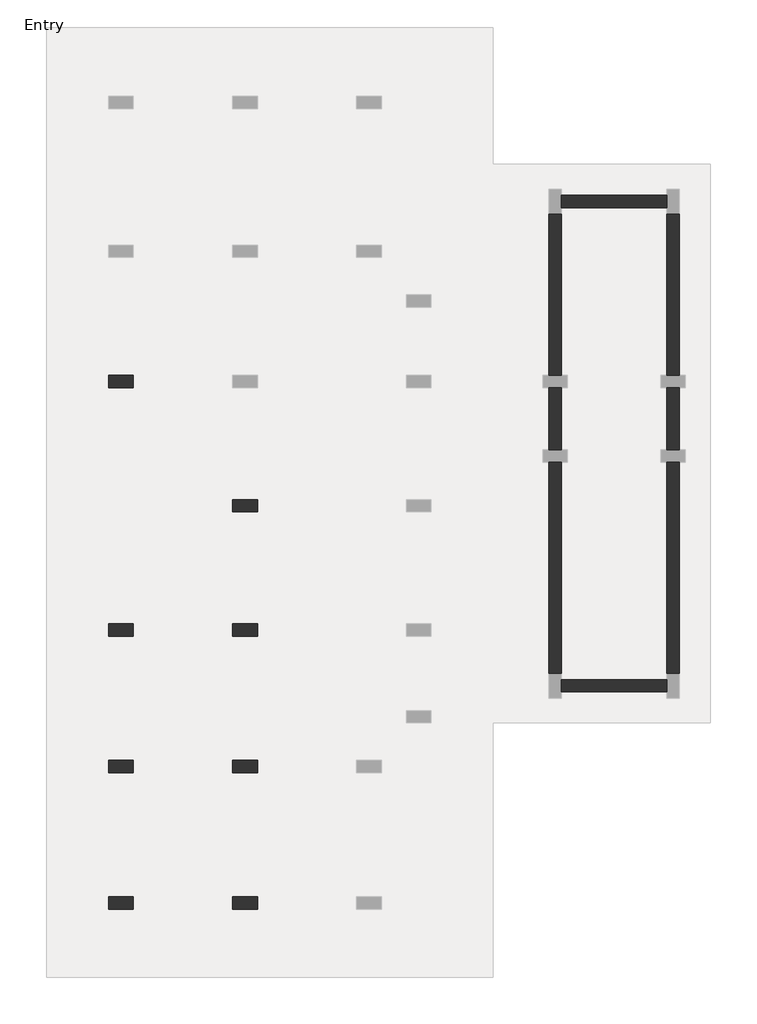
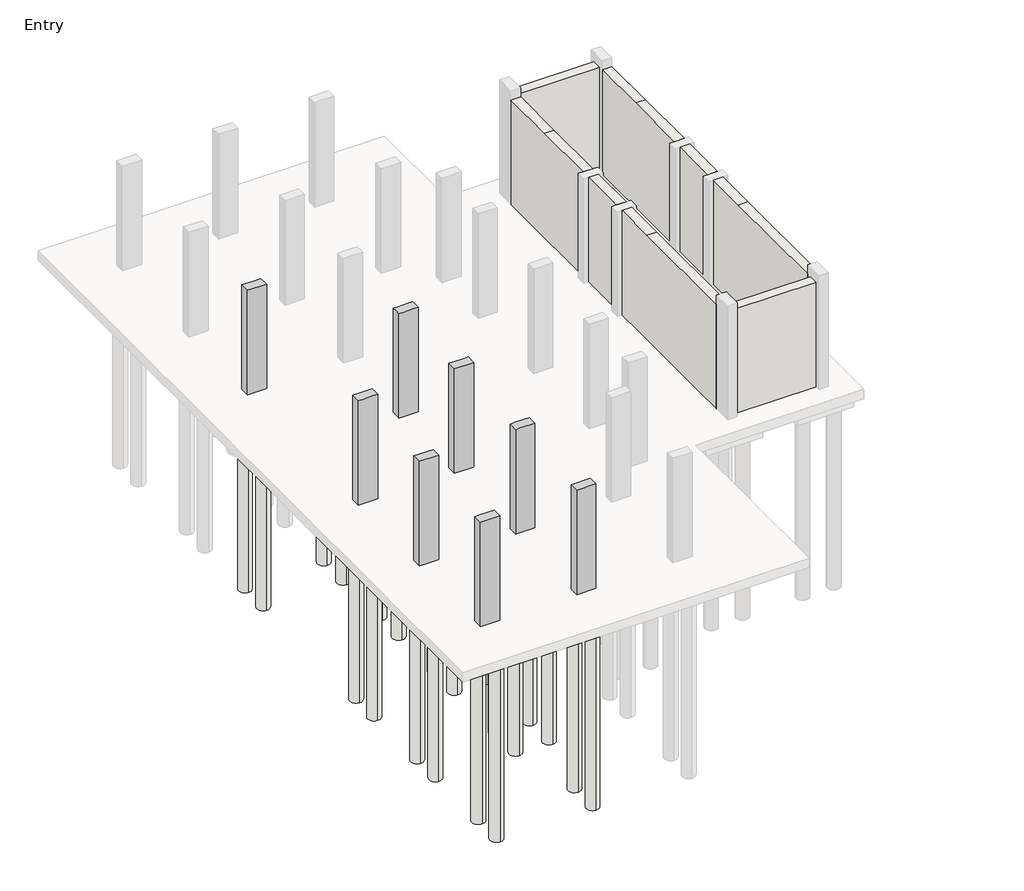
# One storey, part 1 of 3: 32 slabs, 8 columns, 8 walls.
"""IFC4 building model written with IfcOpenShell, lengths in millimetres."""

from ifc_helpers import new_model, si_unit, point, frame, frame_2d, origin, origin_with_axes, place, context, project, spatial, polyline, circle_curve, trimmed, segment, composite_curve, outline, extrude, faceted_brep, element, save

model = new_model("IFC4")

# Units and contexts
model_context = context("Model", 3, world=origin())
ifc_project = project(units=[si_unit("LENGTHUNIT", "METRE", prefix="MILLI")], contexts=[model_context])

# Site, building, storey
site = spatial("IfcSite", under=ifc_project)
building = spatial("IfcBuilding", under=site)
storey = spatial("IfcBuildingStorey", under=building, Name="Entry", Elevation=0.0)

# Columns
placement = place(None, origin())
element("IfcColumn", 1, ObjectType="Concrete-Rectangular-Column : 12 x 24", at=placement, inside=storey, context=model_context, shape_type="Brep", body=[
    faceted_brep([(-20960.8093661, 15543.5691779, 0.0), (-20351.2093661, 15543.5691779, 0.0), (-20351.2093661, 15238.7691779, 0.0), (-20960.8093661, 15238.7691779, 0.0), (-20960.8093661, 15543.5691779, 3505.2), (-20808.4093661, 15543.5691779, 3505.2), (-20503.6093661, 15543.5691779, 3505.2), (-20351.2093661, 15543.5691779, 3505.2), (-20351.2093661, 15543.5691779, 2895.6), (-20351.2093661, 15238.7691779, 3505.2), (-20351.2093661, 15238.7691779, 2895.6), (-20960.8093661, 15238.7691779, 3505.2)], [[[0, 1, 2, 3]], [[4, 5, 6, 7, 8, 1, 0]], [[7, 9, 10, 2, 1, 8]], [[9, 11, 3, 2, 10]], [[11, 4, 0, 3]], [[4, 11, 9, 7, 6, 5]]]),
])
element("IfcColumn", 2, ObjectType="Concrete-Rectangular-Column : 12 x 24", at=placement, inside=storey, context=model_context, shape_type="Brep", body=[
    faceted_brep([(-17912.8093661, 12495.5691779, 0.0), (-17303.2093661, 12495.5691779, 0.0), (-17303.2093661, 12190.7691779, 0.0), (-17912.8093661, 12190.7691779, 0.0), (-17912.8093661, 12495.5691779, 3505.2), (-17760.4093661, 12495.5691779, 3505.2), (-17455.6093661, 12495.5691779, 3505.2), (-17303.2093661, 12495.5691779, 3505.2), (-17303.2093661, 12495.5691779, 2895.6), (-17303.2093661, 12190.7691779, 3505.2), (-17303.2093661, 12190.7691779, 2895.6), (-17455.6093661, 12190.7691779, 3505.2), (-17760.4093661, 12190.7691779, 3505.2), (-17912.8093661, 12190.7691779, 3505.2), (-17912.8093661, 12343.1691779, 3505.2)], [[[0, 1, 2, 3]], [[4, 5, 6, 7, 8, 1, 0]], [[7, 9, 10, 2, 1, 8]], [[9, 11, 12, 13, 3, 2, 10]], [[13, 14, 4, 0, 3]], [[4, 14, 13, 12, 11, 9, 7, 6, 5]]]),
])
element("IfcColumn", 3, ObjectType="Concrete-Rectangular-Column : 12 x 24", at=placement, inside=storey, context=model_context, shape_type="Brep", body=[
    faceted_brep([(-20960.8093661, 9447.5691779, 0.0), (-20351.2093661, 9447.5691779, 0.0), (-20351.2093661, 9142.7691779, 0.0), (-20960.8093661, 9142.7691779, 0.0), (-20960.8093661, 9447.5691779, 3505.2), (-20351.2093661, 9447.5691779, 3505.2), (-20351.2093661, 9447.5691779, 2895.6), (-20351.2093661, 9142.7691779, 3505.2), (-20351.2093661, 9142.7691779, 2895.6), (-20503.6093661, 9142.7691779, 3505.2), (-20808.4093661, 9142.7691779, 3505.2), (-20960.8093661, 9142.7691779, 3505.2)], [[[0, 1, 2, 3]], [[4, 5, 6, 1, 0]], [[5, 7, 8, 2, 1, 6]], [[7, 9, 10, 11, 3, 2, 8]], [[11, 4, 0, 3]], [[4, 11, 10, 9, 7, 5]]]),
])
element("IfcColumn", 4, ObjectType="Concrete-Rectangular-Column : 12 x 24", at=placement, inside=storey, context=model_context, shape_type="Brep", body=[
    faceted_brep([(-17912.8093661, 9447.5691779, 0.0), (-17303.2093661, 9447.5691779, 0.0), (-17303.2093661, 9142.7691779, 0.0), (-17912.8093661, 9142.7691779, 0.0), (-17912.8093661, 9447.5691779, 3505.2), (-17760.4093661, 9447.5691779, 3505.2), (-17455.6093661, 9447.5691779, 3505.2), (-17303.2093661, 9447.5691779, 3505.2), (-17303.2093661, 9447.5691779, 2895.6), (-17912.8093661, 9447.5691779, 2895.6), (-17303.2093661, 9142.7691779, 3505.2), (-17303.2093661, 9142.7691779, 2895.6), (-17455.6093661, 9142.7691779, 3505.2), (-17760.4093661, 9142.7691779, 3505.2), (-17912.8093661, 9142.7691779, 3505.2), (-17912.8093661, 9142.7691779, 2895.6)], [[[0, 1, 2, 3]], [[4, 5, 6, 7, 8, 1, 0, 9]], [[7, 10, 11, 2, 1, 8]], [[10, 12, 13, 14, 15, 3, 2, 11]], [[14, 4, 9, 0, 3, 15]], [[4, 14, 13, 12, 10, 7, 6, 5]]]),
])
element("IfcColumn", 5, ObjectType="Concrete-Rectangular-Column : 12 x 24", at=placement, inside=storey, context=model_context, shape_type="Brep", body=[
    faceted_brep([(-20960.8093661, 2741.9691779, 0.0), (-20351.2093661, 2741.9691779, 0.0), (-20351.2093661, 2437.1691779, 0.0), (-20960.8093661, 2437.1691779, 0.0), (-20960.8093661, 2741.9691779, 3505.2), (-20808.4093661, 2741.9691779, 3505.2), (-20503.6093661, 2741.9691779, 3505.2), (-20351.2093661, 2741.9691779, 3505.2), (-20351.2093661, 2741.9691779, 2895.6), (-20351.2093661, 2437.1691779, 3505.2), (-20351.2093661, 2437.1691779, 2895.6), (-20960.8093661, 2437.1691779, 3505.2)], [[[0, 1, 2, 3]], [[4, 5, 6, 7, 8, 1, 0]], [[7, 9, 10, 2, 1, 8]], [[9, 11, 3, 2, 10]], [[11, 4, 0, 3]], [[4, 11, 9, 7, 6, 5]]]),
])
element("IfcColumn", 6, ObjectType="Concrete-Rectangular-Column : 12 x 24", at=placement, inside=storey, context=model_context, shape_type="Brep", body=[
    faceted_brep([(-17912.8093661, 2741.9691779, 0.0), (-17303.2093661, 2741.9691779, 0.0), (-17303.2093661, 2437.1691779, 0.0), (-17912.8093661, 2437.1691779, 0.0), (-17912.8093661, 2741.9691779, 3505.2), (-17760.4093661, 2741.9691779, 3505.2), (-17455.6093661, 2741.9691779, 3505.2), (-17303.2093661, 2741.9691779, 3505.2), (-17303.2093661, 2741.9691779, 2895.6), (-17912.8093661, 2741.9691779, 2895.6), (-17303.2093661, 2437.1691779, 3505.2), (-17303.2093661, 2437.1691779, 2895.6), (-17912.8093661, 2437.1691779, 3505.2), (-17912.8093661, 2437.1691779, 2895.6)], [[[0, 1, 2, 3]], [[4, 5, 6, 7, 8, 1, 0, 9]], [[7, 10, 11, 2, 1, 8]], [[10, 12, 13, 3, 2, 11]], [[12, 4, 9, 0, 3, 13]], [[4, 12, 10, 7, 6, 5]]]),
])
element("IfcColumn", 7, ObjectType="Concrete-Rectangular-Column : 12 x 24", at=placement, inside=storey, context=model_context, shape_type="Brep", body=[
    faceted_brep([(-20960.8093661, 6094.7691779, 0.0), (-20351.2093661, 6094.7691779, 0.0), (-20351.2093661, 5789.9691779, 0.0), (-20960.8093661, 5789.9691779, 0.0), (-20960.8093661, 6094.7691779, 3505.2), (-20808.4093661, 6094.7691779, 3505.2), (-20503.6093661, 6094.7691779, 3505.2), (-20351.2093661, 6094.7691779, 3505.2), (-20351.2093661, 6094.7691779, 2895.6), (-20351.2093661, 5789.9691779, 3505.2), (-20351.2093661, 5789.9691779, 2895.6), (-20503.6093661, 5789.9691779, 3505.2), (-20808.4093661, 5789.9691779, 3505.2), (-20960.8093661, 5789.9691779, 3505.2)], [[[0, 1, 2, 3]], [[4, 5, 6, 7, 8, 1, 0]], [[7, 9, 10, 2, 1, 8]], [[9, 11, 12, 13, 3, 2, 10]], [[13, 4, 0, 3]], [[4, 13, 12, 11, 9, 7, 6, 5]]]),
])
element("IfcColumn", 8, ObjectType="Concrete-Rectangular-Column : 12 x 24", at=placement, inside=storey, context=model_context, shape_type="Brep", body=[
    faceted_brep([(-17912.8093661, 6094.7691779, 0.0), (-17303.2093661, 6094.7691779, 0.0), (-17303.2093661, 5789.9691779, 0.0), (-17912.8093661, 5789.9691779, 0.0), (-17912.8093661, 6094.7691779, 3505.2), (-17760.4093661, 6094.7691779, 3505.2), (-17455.6093661, 6094.7691779, 3505.2), (-17303.2093661, 6094.7691779, 3505.2), (-17303.2093661, 6094.7691779, 2895.6), (-17912.8093661, 6094.7691779, 2895.6), (-17303.2093661, 5789.9691779, 3505.2), (-17303.2093661, 5789.9691779, 2895.6), (-17455.6093661, 5789.9691779, 3505.2), (-17760.4093661, 5789.9691779, 3505.2), (-17912.8093661, 5789.9691779, 3505.2), (-17912.8093661, 5789.9691779, 2895.6)], [[[0, 1, 2, 3]], [[4, 5, 6, 7, 8, 1, 0, 9]], [[7, 10, 11, 2, 1, 8]], [[10, 12, 13, 14, 15, 3, 2, 11]], [[14, 4, 9, 0, 3, 15]], [[4, 14, 13, 12, 10, 7, 6, 5]]]),
])

# Slabs
element("IfcSlab", 9, ObjectType="Pile Cap-2 Pile : 31\"x61\"x35\"", at=placement, inside=storey, context=model_context, shape_type="SweptSolid", body=[
    extrude(outline(polyline([(-21062.4093661, 16292.8691779), (-20249.6093661, 16292.8691779), (-20249.6093661, 14489.4691779), (-21062.4093661, 14489.4691779), (-21062.4093661, 16292.8691779)])), frame((0.0, 0.0, -889.0), z_axis=(0.0, 0.0, 1.0), x_axis=(1.0, 0.0, 0.0)), (0.0, 0.0, 1.0), 584.2),
])
element("IfcSlab", 10, ObjectType="Pile Cap-2 Pile : 31\"x61\"x35\"", at=placement, inside=storey, context=model_context, shape_type="SweptSolid", body=[
    extrude(outline(polyline([(-21062.4093661, 10196.8691779), (-20249.6093661, 10196.8691779), (-20249.6093661, 8393.4691779), (-21062.4093661, 8393.4691779), (-21062.4093661, 10196.8691779)])), frame((0.0, 0.0, -889.0), z_axis=(0.0, 0.0, 1.0), x_axis=(1.0, 0.0, 0.0)), (0.0, 0.0, 1.0), 584.2),
])
element("IfcSlab", 11, ObjectType="Pile Cap-2 Pile : 31\"x61\"x35\"", at=placement, inside=storey, context=model_context, shape_type="SweptSolid", body=[
    extrude(outline(polyline([(-21062.4093661, 6844.0691779), (-20249.6093661, 6844.0691779), (-20249.6093661, 5040.6691779), (-21062.4093661, 5040.6691779), (-21062.4093661, 6844.0691779)])), frame((0.0, 0.0, -889.0), z_axis=(0.0, 0.0, 1.0), x_axis=(1.0, 0.0, 0.0)), (0.0, 0.0, 1.0), 584.2),
])
element("IfcSlab", 12, ObjectType="Pile Cap-2 Pile : 31\"x61\"x35\"", at=placement, inside=storey, context=model_context, shape_type="SweptSolid", body=[
    extrude(outline(polyline([(-21062.4093661, 3491.2691779), (-20249.6093661, 3491.2691779), (-20249.6093661, 1687.8691779), (-21062.4093661, 1687.8691779), (-21062.4093661, 3491.2691779)])), frame((0.0, 0.0, -889.0), z_axis=(0.0, 0.0, 1.0), x_axis=(1.0, 0.0, 0.0)), (0.0, 0.0, 1.0), 584.2),
])
element("IfcSlab", 13, ObjectType="Pile Cap-2 Pile : 31\"x61\"x35\"", at=placement, inside=storey, context=model_context, shape_type="SweptSolid", body=[
    extrude(outline(polyline([(-18014.4093661, 3491.2691779), (-17201.6093661, 3491.2691779), (-17201.6093661, 1687.8691779), (-18014.4093661, 1687.8691779), (-18014.4093661, 3491.2691779)])), frame((0.0, 0.0, -889.0), z_axis=(0.0, 0.0, 1.0), x_axis=(1.0, 0.0, 0.0)), (0.0, 0.0, 1.0), 584.2),
])
element("IfcSlab", 14, ObjectType="Pile Cap-4 Pile : 72\"x72\"x35\"", at=placement, inside=storey, context=model_context, shape_type="SweptSolid", body=[
    extrude(outline(polyline([(-18522.4093661, 13257.5691779), (-16693.6093661, 13257.5691779), (-16693.6093661, 11428.7691779), (-18522.4093661, 11428.7691779), (-18522.4093661, 13257.5691779)])), frame((0.0, 0.0, -889.0), z_axis=(0.0, 0.0, 1.0), x_axis=(1.0, 0.0, 0.0)), (0.0, 0.0, 1.0), 584.2),
])
element("IfcSlab", 15, ObjectType="Pile Cap-4 Pile : 72\"x72\"x35\"", at=placement, inside=storey, context=model_context, shape_type="SweptSolid", body=[
    extrude(outline(polyline([(-18522.4093661, 10209.5691779), (-16693.6093661, 10209.5691779), (-16693.6093661, 8380.7691779), (-18522.4093661, 8380.7691779), (-18522.4093661, 10209.5691779)])), frame((0.0, 0.0, -889.0), z_axis=(0.0, 0.0, 1.0), x_axis=(1.0, 0.0, 0.0)), (0.0, 0.0, 1.0), 584.2),
])
element("IfcSlab", 16, ObjectType="Pile Cap-4 Pile : 72\"x72\"x35\"", at=placement, inside=storey, context=model_context, shape_type="SweptSolid", body=[
    extrude(outline(polyline([(-18522.4093661, 6856.7691779), (-16693.6093661, 6856.7691779), (-16693.6093661, 5027.9691779), (-18522.4093661, 5027.9691779), (-18522.4093661, 6856.7691779)])), frame((0.0, 0.0, -889.0), z_axis=(0.0, 0.0, 1.0), x_axis=(1.0, 0.0, 0.0)), (0.0, 0.0, 1.0), 584.2),
])
element("IfcSlab", 17, ObjectType="Pile-Steel Pipe : 16\" Diameter", at=placement, inside=storey, context=model_context, shape_type="SweptSolid", body=[
    extrude(outline(composite_curve([segment(trimmed(circle_curve(frame_2d((-18141.4093661, 14857.7691779)), 203.2), [point((-18141.4093661, 14654.5691779))], [point((-18141.4093661, 15060.9691779))], False, "CARTESIAN"), True, "CONTINUOUS"), segment(trimmed(circle_curve(frame_2d((-18141.4093661, 14857.7691779)), 203.2), [point((-18141.4093661, 15060.9691779))], [point((-18141.4093661, 14654.5691779))], False, "CARTESIAN"), True, "CONTINUOUS")], self_intersect=False)), frame((0.0, 0.0, -6985.0), z_axis=(0.0, 0.0, 1.0), x_axis=(1.0, 0.0, 0.0)), (0.0, 0.0, 1.0), 6096.0),
])
element("IfcSlab", 18, ObjectType="Pile-Steel Pipe : 16\" Diameter", at=placement, inside=storey, context=model_context, shape_type="SweptSolid", body=[
    extrude(outline(composite_curve([segment(trimmed(circle_curve(frame_2d((-18141.4093661, 15924.5691779)), 203.2), [point((-18141.4093661, 15721.3691779))], [point((-18141.4093661, 16127.7691779))], False, "CARTESIAN"), True, "CONTINUOUS"), segment(trimmed(circle_curve(frame_2d((-18141.4093661, 15924.5691779)), 203.2), [point((-18141.4093661, 16127.7691779))], [point((-18141.4093661, 15721.3691779))], False, "CARTESIAN"), True, "CONTINUOUS")], self_intersect=False)), frame((0.0, 0.0, -6985.0), z_axis=(0.0, 0.0, 1.0), x_axis=(1.0, 0.0, 0.0)), (0.0, 0.0, 1.0), 6096.0),
])
element("IfcSlab", 19, ObjectType="Pile-Steel Pipe : 16\" Diameter", at=placement, inside=storey, context=model_context, shape_type="SweptSolid", body=[
    extrude(outline(composite_curve([segment(trimmed(circle_curve(frame_2d((-18141.4093661, 11809.7691779)), 203.2), [point((-18141.4093661, 11606.5691779))], [point((-18141.4093661, 12012.9691779))], False, "CARTESIAN"), True, "CONTINUOUS"), segment(trimmed(circle_curve(frame_2d((-18141.4093661, 11809.7691779)), 203.2), [point((-18141.4093661, 12012.9691779))], [point((-18141.4093661, 11606.5691779))], False, "CARTESIAN"), True, "CONTINUOUS")], self_intersect=False)), frame((0.0, 0.0, -6985.0), z_axis=(0.0, 0.0, 1.0), x_axis=(1.0, 0.0, 0.0)), (0.0, 0.0, 1.0), 6096.0),
])
element("IfcSlab", 20, ObjectType="Pile-Steel Pipe : 16\" Diameter", at=placement, inside=storey, context=model_context, shape_type="SweptSolid", body=[
    extrude(outline(composite_curve([segment(trimmed(circle_curve(frame_2d((-17074.6093661, 11809.7691779)), 203.2), [point((-17074.6093661, 11606.5691779))], [point((-17074.6093661, 12012.9691779))], False, "CARTESIAN"), True, "CONTINUOUS"), segment(trimmed(circle_curve(frame_2d((-17074.6093661, 11809.7691779)), 203.2), [point((-17074.6093661, 12012.9691779))], [point((-17074.6093661, 11606.5691779))], False, "CARTESIAN"), True, "CONTINUOUS")], self_intersect=False)), frame((0.0, 0.0, -6985.0), z_axis=(0.0, 0.0, 1.0), x_axis=(1.0, 0.0, 0.0)), (0.0, 0.0, 1.0), 6096.0),
])
element("IfcSlab", 21, ObjectType="Pile-Steel Pipe : 16\" Diameter", at=placement, inside=storey, context=model_context, shape_type="SweptSolid", body=[
    extrude(outline(composite_curve([segment(trimmed(circle_curve(frame_2d((-17074.6093661, 12876.5691779)), 203.2), [point((-17074.6093661, 12673.3691779))], [point((-17074.6093661, 13079.7691779))], False, "CARTESIAN"), True, "CONTINUOUS"), segment(trimmed(circle_curve(frame_2d((-17074.6093661, 12876.5691779)), 203.2), [point((-17074.6093661, 13079.7691779))], [point((-17074.6093661, 12673.3691779))], False, "CARTESIAN"), True, "CONTINUOUS")], self_intersect=False)), frame((0.0, 0.0, -6985.0), z_axis=(0.0, 0.0, 1.0), x_axis=(1.0, 0.0, 0.0)), (0.0, 0.0, 1.0), 6096.0),
])
element("IfcSlab", 22, ObjectType="Pile-Steel Pipe : 16\" Diameter", at=placement, inside=storey, context=model_context, shape_type="SweptSolid", body=[
    extrude(outline(composite_curve([segment(trimmed(circle_curve(frame_2d((-18141.4093661, 12876.5691779)), 203.2), [point((-18141.4093661, 12673.3691779))], [point((-18141.4093661, 13079.7691779))], False, "CARTESIAN"), True, "CONTINUOUS"), segment(trimmed(circle_curve(frame_2d((-18141.4093661, 12876.5691779)), 203.2), [point((-18141.4093661, 13079.7691779))], [point((-18141.4093661, 12673.3691779))], False, "CARTESIAN"), True, "CONTINUOUS")], self_intersect=False)), frame((0.0, 0.0, -6985.0), z_axis=(0.0, 0.0, 1.0), x_axis=(1.0, 0.0, 0.0)), (0.0, 0.0, 1.0), 6096.0),
])
element("IfcSlab", 23, ObjectType="Pile-Steel Pipe : 16\" Diameter", at=placement, inside=storey, context=model_context, shape_type="SweptSolid", body=[
    extrude(outline(composite_curve([segment(trimmed(circle_curve(frame_2d((-18141.4093661, 8761.7691779)), 203.2), [point((-18141.4093661, 8558.5691779))], [point((-18141.4093661, 8964.9691779))], False, "CARTESIAN"), True, "CONTINUOUS"), segment(trimmed(circle_curve(frame_2d((-18141.4093661, 8761.7691779)), 203.2), [point((-18141.4093661, 8964.9691779))], [point((-18141.4093661, 8558.5691779))], False, "CARTESIAN"), True, "CONTINUOUS")], self_intersect=False)), frame((0.0, 0.0, -6985.0), z_axis=(0.0, 0.0, 1.0), x_axis=(1.0, 0.0, 0.0)), (0.0, 0.0, 1.0), 6096.0),
])
element("IfcSlab", 24, ObjectType="Pile-Steel Pipe : 16\" Diameter", at=placement, inside=storey, context=model_context, shape_type="SweptSolid", body=[
    extrude(outline(composite_curve([segment(trimmed(circle_curve(frame_2d((-17074.6093661, 8761.7691779)), 203.2), [point((-17074.6093661, 8558.5691779))], [point((-17074.6093661, 8964.9691779))], False, "CARTESIAN"), True, "CONTINUOUS"), segment(trimmed(circle_curve(frame_2d((-17074.6093661, 8761.7691779)), 203.2), [point((-17074.6093661, 8964.9691779))], [point((-17074.6093661, 8558.5691779))], False, "CARTESIAN"), True, "CONTINUOUS")], self_intersect=False)), frame((0.0, 0.0, -6985.0), z_axis=(0.0, 0.0, 1.0), x_axis=(1.0, 0.0, 0.0)), (0.0, 0.0, 1.0), 6096.0),
])
element("IfcSlab", 25, ObjectType="Pile-Steel Pipe : 16\" Diameter", at=placement, inside=storey, context=model_context, shape_type="SweptSolid", body=[
    extrude(outline(composite_curve([segment(trimmed(circle_curve(frame_2d((-17074.6093661, 9828.5691779)), 203.2), [point((-17074.6093661, 9625.3691779))], [point((-17074.6093661, 10031.7691779))], False, "CARTESIAN"), True, "CONTINUOUS"), segment(trimmed(circle_curve(frame_2d((-17074.6093661, 9828.5691779)), 203.2), [point((-17074.6093661, 10031.7691779))], [point((-17074.6093661, 9625.3691779))], False, "CARTESIAN"), True, "CONTINUOUS")], self_intersect=False)), frame((0.0, 0.0, -6985.0), z_axis=(0.0, 0.0, 1.0), x_axis=(1.0, 0.0, 0.0)), (0.0, 0.0, 1.0), 6096.0),
])
element("IfcSlab", 26, ObjectType="Pile-Steel Pipe : 16\" Diameter", at=placement, inside=storey, context=model_context, shape_type="SweptSolid", body=[
    extrude(outline(composite_curve([segment(trimmed(circle_curve(frame_2d((-18141.4093661, 9828.5691779)), 203.2), [point((-18141.4093661, 9625.3691779))], [point((-18141.4093661, 10031.7691779))], False, "CARTESIAN"), True, "CONTINUOUS"), segment(trimmed(circle_curve(frame_2d((-18141.4093661, 9828.5691779)), 203.2), [point((-18141.4093661, 10031.7691779))], [point((-18141.4093661, 9625.3691779))], False, "CARTESIAN"), True, "CONTINUOUS")], self_intersect=False)), frame((0.0, 0.0, -6985.0), z_axis=(0.0, 0.0, 1.0), x_axis=(1.0, 0.0, 0.0)), (0.0, 0.0, 1.0), 6096.0),
])
element("IfcSlab", 27, ObjectType="Pile-Steel Pipe : 16\" Diameter", at=placement, inside=storey, context=model_context, shape_type="SweptSolid", body=[
    extrude(outline(composite_curve([segment(trimmed(circle_curve(frame_2d((-18141.4093661, 5408.9691779)), 203.2), [point((-18141.4093661, 5205.7691779))], [point((-18141.4093661, 5612.1691779))], False, "CARTESIAN"), True, "CONTINUOUS"), segment(trimmed(circle_curve(frame_2d((-18141.4093661, 5408.9691779)), 203.2), [point((-18141.4093661, 5612.1691779))], [point((-18141.4093661, 5205.7691779))], False, "CARTESIAN"), True, "CONTINUOUS")], self_intersect=False)), frame((0.0, 0.0, -6985.0), z_axis=(0.0, 0.0, 1.0), x_axis=(1.0, 0.0, 0.0)), (0.0, 0.0, 1.0), 6096.0),
])
element("IfcSlab", 28, ObjectType="Pile-Steel Pipe : 16\" Diameter", at=placement, inside=storey, context=model_context, shape_type="SweptSolid", body=[
    extrude(outline(composite_curve([segment(trimmed(circle_curve(frame_2d((-17074.6093661, 5408.9691779)), 203.2), [point((-17074.6093661, 5205.7691779))], [point((-17074.6093661, 5612.1691779))], False, "CARTESIAN"), True, "CONTINUOUS"), segment(trimmed(circle_curve(frame_2d((-17074.6093661, 5408.9691779)), 203.2), [point((-17074.6093661, 5612.1691779))], [point((-17074.6093661, 5205.7691779))], False, "CARTESIAN"), True, "CONTINUOUS")], self_intersect=False)), frame((0.0, 0.0, -6985.0), z_axis=(0.0, 0.0, 1.0), x_axis=(1.0, 0.0, 0.0)), (0.0, 0.0, 1.0), 6096.0),
])
element("IfcSlab", 29, ObjectType="Pile-Steel Pipe : 16\" Diameter", at=placement, inside=storey, context=model_context, shape_type="SweptSolid", body=[
    extrude(outline(composite_curve([segment(trimmed(circle_curve(frame_2d((-17074.6093661, 6475.7691779)), 203.2), [point((-17074.6093661, 6272.5691779))], [point((-17074.6093661, 6678.9691779))], False, "CARTESIAN"), True, "CONTINUOUS"), segment(trimmed(circle_curve(frame_2d((-17074.6093661, 6475.7691779)), 203.2), [point((-17074.6093661, 6678.9691779))], [point((-17074.6093661, 6272.5691779))], False, "CARTESIAN"), True, "CONTINUOUS")], self_intersect=False)), frame((0.0, 0.0, -6985.0), z_axis=(0.0, 0.0, 1.0), x_axis=(1.0, 0.0, 0.0)), (0.0, 0.0, 1.0), 6096.0),
])
element("IfcSlab", 30, ObjectType="Pile-Steel Pipe : 16\" Diameter", at=placement, inside=storey, context=model_context, shape_type="SweptSolid", body=[
    extrude(outline(composite_curve([segment(trimmed(circle_curve(frame_2d((-18141.4093661, 6475.7691779)), 203.2), [point((-18141.4093661, 6272.5691779))], [point((-18141.4093661, 6678.9691779))], False, "CARTESIAN"), True, "CONTINUOUS"), segment(trimmed(circle_curve(frame_2d((-18141.4093661, 6475.7691779)), 203.2), [point((-18141.4093661, 6678.9691779))], [point((-18141.4093661, 6272.5691779))], False, "CARTESIAN"), True, "CONTINUOUS")], self_intersect=False)), frame((0.0, 0.0, -6985.0), z_axis=(0.0, 0.0, 1.0), x_axis=(1.0, 0.0, 0.0)), (0.0, 0.0, 1.0), 6096.0),
])
element("IfcSlab", 31, ObjectType="Pile-Steel Pipe : 16\" Diameter", at=placement, inside=storey, context=model_context, shape_type="SweptSolid", body=[
    extrude(outline(composite_curve([segment(trimmed(circle_curve(frame_2d((-20656.0093661, 15886.4691779)), 203.2), [point((-20656.0093661, 15683.2691779))], [point((-20656.0093661, 16089.6691779))], False, "CARTESIAN"), True, "CONTINUOUS"), segment(trimmed(circle_curve(frame_2d((-20656.0093661, 15886.4691779)), 203.2), [point((-20656.0093661, 16089.6691779))], [point((-20656.0093661, 15683.2691779))], False, "CARTESIAN"), True, "CONTINUOUS")], self_intersect=False)), frame((0.0, 0.0, -6985.0), z_axis=(0.0, 0.0, 1.0), x_axis=(1.0, 0.0, 0.0)), (0.0, 0.0, 1.0), 6096.0),
])
element("IfcSlab", 32, ObjectType="Pile-Steel Pipe : 16\" Diameter", at=placement, inside=storey, context=model_context, shape_type="SweptSolid", body=[
    extrude(outline(composite_curve([segment(trimmed(circle_curve(frame_2d((-20656.0093661, 14895.8691779)), 203.2), [point((-20656.0093661, 14692.6691779))], [point((-20656.0093661, 15099.0691779))], False, "CARTESIAN"), True, "CONTINUOUS"), segment(trimmed(circle_curve(frame_2d((-20656.0093661, 14895.8691779)), 203.2), [point((-20656.0093661, 15099.0691779))], [point((-20656.0093661, 14692.6691779))], False, "CARTESIAN"), True, "CONTINUOUS")], self_intersect=False)), frame((0.0, 0.0, -6985.0), z_axis=(0.0, 0.0, 1.0), x_axis=(1.0, 0.0, 0.0)), (0.0, 0.0, 1.0), 6096.0),
])
element("IfcSlab", 33, ObjectType="Pile-Steel Pipe : 16\" Diameter", at=placement, inside=storey, context=model_context, shape_type="SweptSolid", body=[
    extrude(outline(composite_curve([segment(trimmed(circle_curve(frame_2d((-20656.0093661, 9790.4691779)), 203.2), [point((-20656.0093661, 9587.2691779))], [point((-20656.0093661, 9993.6691779))], False, "CARTESIAN"), True, "CONTINUOUS"), segment(trimmed(circle_curve(frame_2d((-20656.0093661, 9790.4691779)), 203.2), [point((-20656.0093661, 9993.6691779))], [point((-20656.0093661, 9587.2691779))], False, "CARTESIAN"), True, "CONTINUOUS")], self_intersect=False)), frame((0.0, 0.0, -6985.0), z_axis=(0.0, 0.0, 1.0), x_axis=(1.0, 0.0, 0.0)), (0.0, 0.0, 1.0), 6096.0),
])
element("IfcSlab", 34, ObjectType="Pile-Steel Pipe : 16\" Diameter", at=placement, inside=storey, context=model_context, shape_type="SweptSolid", body=[
    extrude(outline(composite_curve([segment(trimmed(circle_curve(frame_2d((-20656.0093661, 8799.8691779)), 203.2), [point((-20656.0093661, 8596.6691779))], [point((-20656.0093661, 9003.0691779))], False, "CARTESIAN"), True, "CONTINUOUS"), segment(trimmed(circle_curve(frame_2d((-20656.0093661, 8799.8691779)), 203.2), [point((-20656.0093661, 9003.0691779))], [point((-20656.0093661, 8596.6691779))], False, "CARTESIAN"), True, "CONTINUOUS")], self_intersect=False)), frame((0.0, 0.0, -6985.0), z_axis=(0.0, 0.0, 1.0), x_axis=(1.0, 0.0, 0.0)), (0.0, 0.0, 1.0), 6096.0),
])
element("IfcSlab", 35, ObjectType="Pile-Steel Pipe : 16\" Diameter", at=placement, inside=storey, context=model_context, shape_type="SweptSolid", body=[
    extrude(outline(composite_curve([segment(trimmed(circle_curve(frame_2d((-20656.0093661, 6437.6691779)), 203.2), [point((-20656.0093661, 6234.4691779))], [point((-20656.0093661, 6640.8691779))], False, "CARTESIAN"), True, "CONTINUOUS"), segment(trimmed(circle_curve(frame_2d((-20656.0093661, 6437.6691779)), 203.2), [point((-20656.0093661, 6640.8691779))], [point((-20656.0093661, 6234.4691779))], False, "CARTESIAN"), True, "CONTINUOUS")], self_intersect=False)), frame((0.0, 0.0, -6985.0), z_axis=(0.0, 0.0, 1.0), x_axis=(1.0, 0.0, 0.0)), (0.0, 0.0, 1.0), 6096.0),
])
element("IfcSlab", 36, ObjectType="Pile-Steel Pipe : 16\" Diameter", at=placement, inside=storey, context=model_context, shape_type="SweptSolid", body=[
    extrude(outline(composite_curve([segment(trimmed(circle_curve(frame_2d((-20656.0093661, 5447.0691779)), 203.2), [point((-20656.0093661, 5243.8691779))], [point((-20656.0093661, 5650.2691779))], False, "CARTESIAN"), True, "CONTINUOUS"), segment(trimmed(circle_curve(frame_2d((-20656.0093661, 5447.0691779)), 203.2), [point((-20656.0093661, 5650.2691779))], [point((-20656.0093661, 5243.8691779))], False, "CARTESIAN"), True, "CONTINUOUS")], self_intersect=False)), frame((0.0, 0.0, -6985.0), z_axis=(0.0, 0.0, 1.0), x_axis=(1.0, 0.0, 0.0)), (0.0, 0.0, 1.0), 6096.0),
])
element("IfcSlab", 37, ObjectType="Pile-Steel Pipe : 16\" Diameter", at=placement, inside=storey, context=model_context, shape_type="SweptSolid", body=[
    extrude(outline(composite_curve([segment(trimmed(circle_curve(frame_2d((-20656.0093661, 3084.8691779)), 203.2), [point((-20656.0093661, 2881.6691779))], [point((-20656.0093661, 3288.0691779))], False, "CARTESIAN"), True, "CONTINUOUS"), segment(trimmed(circle_curve(frame_2d((-20656.0093661, 3084.8691779)), 203.2), [point((-20656.0093661, 3288.0691779))], [point((-20656.0093661, 2881.6691779))], False, "CARTESIAN"), True, "CONTINUOUS")], self_intersect=False)), frame((0.0, 0.0, -6985.0), z_axis=(0.0, 0.0, 1.0), x_axis=(1.0, 0.0, 0.0)), (0.0, 0.0, 1.0), 6096.0),
])
element("IfcSlab", 38, ObjectType="Pile-Steel Pipe : 16\" Diameter", at=placement, inside=storey, context=model_context, shape_type="SweptSolid", body=[
    extrude(outline(composite_curve([segment(trimmed(circle_curve(frame_2d((-20656.0093661, 2094.2691779)), 203.2), [point((-20656.0093661, 1891.0691779))], [point((-20656.0093661, 2297.4691779))], False, "CARTESIAN"), True, "CONTINUOUS"), segment(trimmed(circle_curve(frame_2d((-20656.0093661, 2094.2691779)), 203.2), [point((-20656.0093661, 2297.4691779))], [point((-20656.0093661, 1891.0691779))], False, "CARTESIAN"), True, "CONTINUOUS")], self_intersect=False)), frame((0.0, 0.0, -6985.0), z_axis=(0.0, 0.0, 1.0), x_axis=(1.0, 0.0, 0.0)), (0.0, 0.0, 1.0), 6096.0),
])
element("IfcSlab", 39, ObjectType="Pile-Steel Pipe : 16\" Diameter", at=placement, inside=storey, context=model_context, shape_type="SweptSolid", body=[
    extrude(outline(composite_curve([segment(trimmed(circle_curve(frame_2d((-17608.0093661, 3084.8691779)), 203.2), [point((-17608.0093661, 2881.6691779))], [point((-17608.0093661, 3288.0691779))], False, "CARTESIAN"), True, "CONTINUOUS"), segment(trimmed(circle_curve(frame_2d((-17608.0093661, 3084.8691779)), 203.2), [point((-17608.0093661, 3288.0691779))], [point((-17608.0093661, 2881.6691779))], False, "CARTESIAN"), True, "CONTINUOUS")], self_intersect=False)), frame((0.0, 0.0, -6985.0), z_axis=(0.0, 0.0, 1.0), x_axis=(1.0, 0.0, 0.0)), (0.0, 0.0, 1.0), 6096.0),
])
element("IfcSlab", 40, ObjectType="Pile-Steel Pipe : 16\" Diameter", at=placement, inside=storey, context=model_context, shape_type="SweptSolid", body=[
    extrude(outline(composite_curve([segment(trimmed(circle_curve(frame_2d((-17608.0093661, 2094.2691779)), 203.2), [point((-17608.0093661, 1891.0691779))], [point((-17608.0093661, 2297.4691779))], False, "CARTESIAN"), True, "CONTINUOUS"), segment(trimmed(circle_curve(frame_2d((-17608.0093661, 2094.2691779)), 203.2), [point((-17608.0093661, 2297.4691779))], [point((-17608.0093661, 1891.0691779))], False, "CARTESIAN"), True, "CONTINUOUS")], self_intersect=False)), frame((0.0, 0.0, -6985.0), z_axis=(0.0, 0.0, 1.0), x_axis=(1.0, 0.0, 0.0)), (0.0, 0.0, 1.0), 6096.0),
])

# Walls
element("IfcWall", 41, ObjectType="Core-Shaft - 12\" Concrete", at=placement, inside=storey, context=model_context, shape_type="SweptSolid", body=[
    extrude(outline(polyline([(-7244.8093661, 19658.3691779), (-9835.6093661, 19658.3691779), (-9835.6093661, 19963.1691779), (-7244.8093661, 19963.1691779), (-7244.8093661, 19658.3691779)])), origin_with_axes(), (0.0, 0.0, 1.0), 3505.2),
])
element("IfcWall", 42, ObjectType="Core-Shaft - 12\" Concrete", at=placement, inside=storey, context=model_context, shape_type="SweptSolid", body=[
    extrude(outline(polyline([(19505.9691779, 0.0), (15543.5691779, 0.0), (15543.5691779, 3505.2), (17677.1691779, 3505.2), (19505.9691779, 3505.2), (19505.9691779, 0.0)])), frame((-7244.8093661, 0.0, 0.0), z_axis=(1.0, 0.0, 0.0), x_axis=(0.0, 1.0, 0.0)), (0.0, 0.0, 1.0), 304.8),
])
element("IfcWall", 43, ObjectType="Core-Shaft - 12\" Concrete", at=placement, inside=storey, context=model_context, shape_type="SweptSolid", body=[
    extrude(outline(polyline([(-7244.8093661, 13714.7691779), (-7244.8093661, 15238.7691779), (-6940.0093661, 15238.7691779), (-6940.0093661, 13714.7691779), (-7244.8093661, 13714.7691779)])), origin_with_axes(), (0.0, 0.0, 1.0), 3505.2),
])
element("IfcWall", 44, ObjectType="Core-Shaft - 12\" Concrete", at=placement, inside=storey, context=model_context, shape_type="SweptSolid", body=[
    extrude(outline(polyline([(13409.9691779, 0.0), (8228.3691779, 0.0), (8228.3691779, 3505.2), (12038.3691779, 3505.2), (13409.9691779, 3505.2), (13409.9691779, 0.0)])), frame((-7244.8093661, 0.0, 0.0), z_axis=(1.0, 0.0, 0.0), x_axis=(0.0, 1.0, 0.0)), (0.0, 0.0, 1.0), 304.8),
])
element("IfcWall", 45, ObjectType="Core-Shaft - 12\" Concrete", at=placement, inside=storey, context=model_context, shape_type="SweptSolid", body=[
    extrude(outline(polyline([(-7244.8093661, 7771.1691779), (-9835.6093661, 7771.1691779), (-9835.6093661, 8075.9691779), (-7244.8093661, 8075.9691779), (-7244.8093661, 7771.1691779)])), origin_with_axes(), (0.0, 0.0, 1.0), 3505.2),
])
element("IfcWall", 46, ObjectType="Core-Shaft - 12\" Concrete", at=placement, inside=storey, context=model_context, shape_type="SweptSolid", body=[
    extrude(outline(polyline([(8228.3691779, 0.0), (8228.3691779, 3505.2), (12038.3691779, 3505.2), (13409.9691779, 3505.2), (13409.9691779, 0.0), (8228.3691779, 0.0)])), frame((-10140.4093661, 0.0, 0.0), z_axis=(1.0, 0.0, 0.0), x_axis=(0.0, 1.0, 0.0)), (0.0, 0.0, 1.0), 304.8),
])
element("IfcWall", 47, ObjectType="Core-Shaft - 12\" Concrete", at=placement, inside=storey, context=model_context, shape_type="SweptSolid", body=[
    extrude(outline(polyline([(-9835.6093661, 15238.7691779), (-9835.6093661, 13714.7691779), (-10140.4093661, 13714.7691779), (-10140.4093661, 15238.7691779), (-9835.6093661, 15238.7691779)])), origin_with_axes(), (0.0, 0.0, 1.0), 3505.2),
])
element("IfcWall", 48, ObjectType="Core-Shaft - 12\" Concrete", at=placement, inside=storey, context=model_context, shape_type="SweptSolid", body=[
    extrude(outline(polyline([(15543.5691779, 0.0), (15543.5691779, 3505.2), (17677.1691779, 3505.2), (19505.9691779, 3505.2), (19505.9691779, 0.0), (15543.5691779, 0.0)])), frame((-10140.4093661, 0.0, 0.0), z_axis=(1.0, 0.0, 0.0), x_axis=(0.0, 1.0, 0.0)), (0.0, 0.0, 1.0), 304.8),
])

save(model, "model.ifc")
